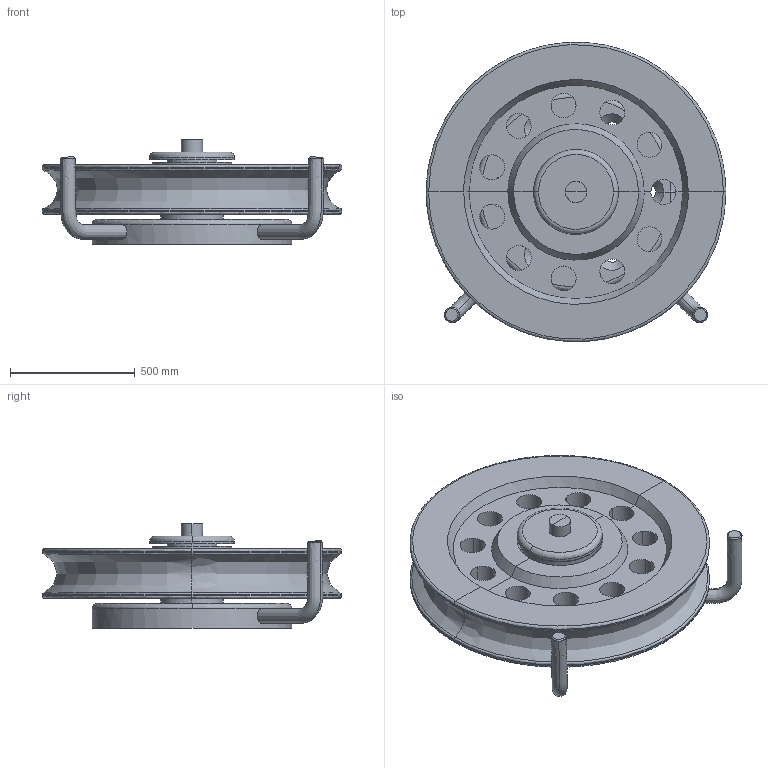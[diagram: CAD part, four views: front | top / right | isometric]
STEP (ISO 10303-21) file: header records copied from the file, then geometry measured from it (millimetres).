
FILE_DESCRIPTION(/* description */ (''),/* implementation_level */ '2;1');
FILE_NAME(/* name */ 'POULIE SIMPLE PLAT PONT D 120',/* time_stamp */ '2005-05-31T09:02:53+02:00',/* author */ (''),/* organization */ (''),/* preprocessor_version */ 'ST-DEVELOPER v8',/* originating_system */ '',/* authorisation */ '');
FILE_SCHEMA (('CONFIG_CONTROL_DESIGN'));
Length unit declared in the file: centimetre
Products named in the file (1): 1
Bounding box: 1200 x 1198.01 x 420 mm (x, y, z)
Volume: 212680065.1 mm3; surface area: 6212694.6 mm2
Topology: 8 solids, 8 shells, 200 faces, 456 edges, 255 vertices
Faces by surface type: bspline 200
Entity records: 8558 total; most frequent: CARTESIAN_POINT 5944, ORIENTED_EDGE 896, EDGE_CURVE 448, VERTEX_POINT 271, EDGE_LOOP 233, B_SPLINE_CURVE_WITH_KNOTS 214, ADVANCED_FACE 200, FACE_OUTER_BOUND 200
